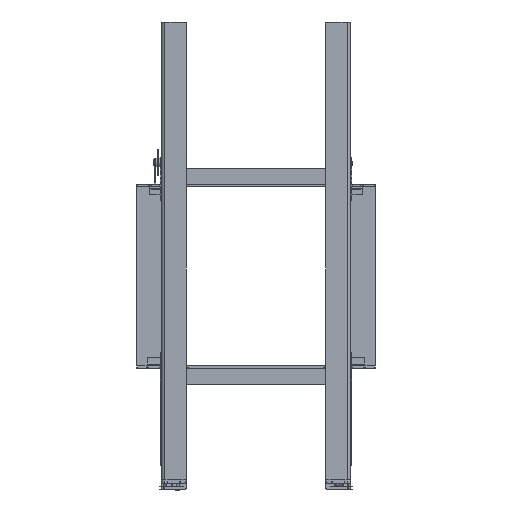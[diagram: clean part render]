
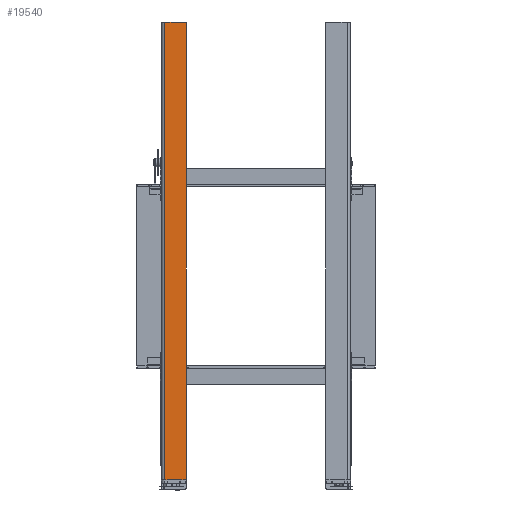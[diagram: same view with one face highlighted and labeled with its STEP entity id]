
A CAD part, front view. The second image highlights one B-rep face of the part: STEP entity #19540.
In plain terms, the highlighted planar face has unit normal (0, -1, 0).
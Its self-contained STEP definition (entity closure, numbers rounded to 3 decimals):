
#1335=LINE('',#28466,#3074);
#1441=LINE('',#28830,#3180);
#1456=LINE('',#28872,#3195);
#1458=LINE('',#28878,#3197);
#1459=LINE('',#28882,#3198);
#1460=LINE('',#28883,#3199);
#3074=VECTOR('',#22661,10.);
#3180=VECTOR('',#23005,10.);
#3195=VECTOR('',#23048,10.);
#3197=VECTOR('',#23058,10.);
#3198=VECTOR('',#23065,10.);
#3199=VECTOR('',#23066,10.);
#5256=FACE_OUTER_BOUND('',#6293,.T.);
#6293=EDGE_LOOP('',(#13507,#13508,#13509,#13510,#13511,#13512,#13513,#13514));
#7398=CIRCLE('',#20675,2.);
#7400=CIRCLE('',#20680,2.);
#8339=VERTEX_POINT('',#28452);
#8345=VERTEX_POINT('',#28464);
#8482=VERTEX_POINT('',#28823);
#8483=VERTEX_POINT('',#28825);
#8484=VERTEX_POINT('',#28829);
#8489=VERTEX_POINT('',#28843);
#8496=VERTEX_POINT('',#28869);
#8497=VERTEX_POINT('',#28871);
#10230=EDGE_CURVE('',#8345,#8339,#1335,.T.);
#10411=EDGE_CURVE('',#8483,#8482,#7398,.T.);
#10413=EDGE_CURVE('',#8484,#8483,#1441,.T.);
#10420=EDGE_CURVE('',#8489,#8484,#7400,.T.);
#10435=EDGE_CURVE('',#8497,#8496,#1456,.T.);
#10439=EDGE_CURVE('',#8482,#8497,#1458,.T.);
#10441=EDGE_CURVE('',#8339,#8496,#1459,.T.);
#10442=EDGE_CURVE('',#8489,#8345,#1460,.T.);
#13507=ORIENTED_EDGE('',*,*,#10411,.T.);
#13508=ORIENTED_EDGE('',*,*,#10439,.T.);
#13509=ORIENTED_EDGE('',*,*,#10435,.T.);
#13510=ORIENTED_EDGE('',*,*,#10441,.F.);
#13511=ORIENTED_EDGE('',*,*,#10230,.F.);
#13512=ORIENTED_EDGE('',*,*,#10442,.F.);
#13513=ORIENTED_EDGE('',*,*,#10420,.T.);
#13514=ORIENTED_EDGE('',*,*,#10413,.T.);
#18957=PLANE('',#20697);
#19540=ADVANCED_FACE('',(#5256),#18957,.T.);
#20675=AXIS2_PLACEMENT_3D('',#28826,#23000,#23001);
#20680=AXIS2_PLACEMENT_3D('',#28844,#23017,#23018);
#20697=AXIS2_PLACEMENT_3D('',#28881,#23063,#23064);
#22661=DIRECTION('',(-1.,0.,0.));
#23000=DIRECTION('center_axis',(0.,-1.,0.));
#23001=DIRECTION('ref_axis',(0.707,0.,0.707));
#23005=DIRECTION('',(0.,0.,1.));
#23017=DIRECTION('center_axis',(0.,-1.,0.));
#23018=DIRECTION('ref_axis',(0.707,0.,-0.707));
#23048=DIRECTION('',(0.,0.,-1.));
#23058=DIRECTION('',(-1.,0.,0.));
#23063=DIRECTION('center_axis',(0.,-1.,0.));
#23064=DIRECTION('ref_axis',(0.,0.,
-1.));
#23065=DIRECTION('',(-1.,0.,0.));
#23066=DIRECTION('',(-1.,0.,0.));
#28452=CARTESIAN_POINT('',(-274.5,-725.5,-904.));
#28464=CARTESIAN_POINT('',(-232.5,-725.5,-904.));
#28466=CARTESIAN_POINT('',(-215.5,-725.5,-904.));
#28823=CARTESIAN_POINT('',(-217.5,-725.5,508.5));
#28825=CARTESIAN_POINT('',(-215.5,-725.5,506.5));
#28826=CARTESIAN_POINT('Origin',(-217.5,-725.5,506.5));
#28829=CARTESIAN_POINT('',(-215.5,-725.5,-902.));
#28830=CARTESIAN_POINT('',(-215.5,-725.5,-904.));
#28843=CARTESIAN_POINT('',(-217.5,-725.5,-904.));
#28844=CARTESIAN_POINT('Origin',(-217.5,-725.5,-902.));
#28869=CARTESIAN_POINT('',(-281.25,-725.5,-904.));
#28871=CARTESIAN_POINT('',(-281.25,-725.5,508.5));
#28872=CARTESIAN_POINT('',(-281.25,-725.5,-197.75));
#28878=CARTESIAN_POINT('',(-215.5,-725.5,508.5));
#28881=CARTESIAN_POINT('Origin',(-286.591,-725.5,-197.75));
#28882=CARTESIAN_POINT('',(-215.5,-725.5,-904.));
#28883=CARTESIAN_POINT('',(-215.5,-725.5,-904.));
